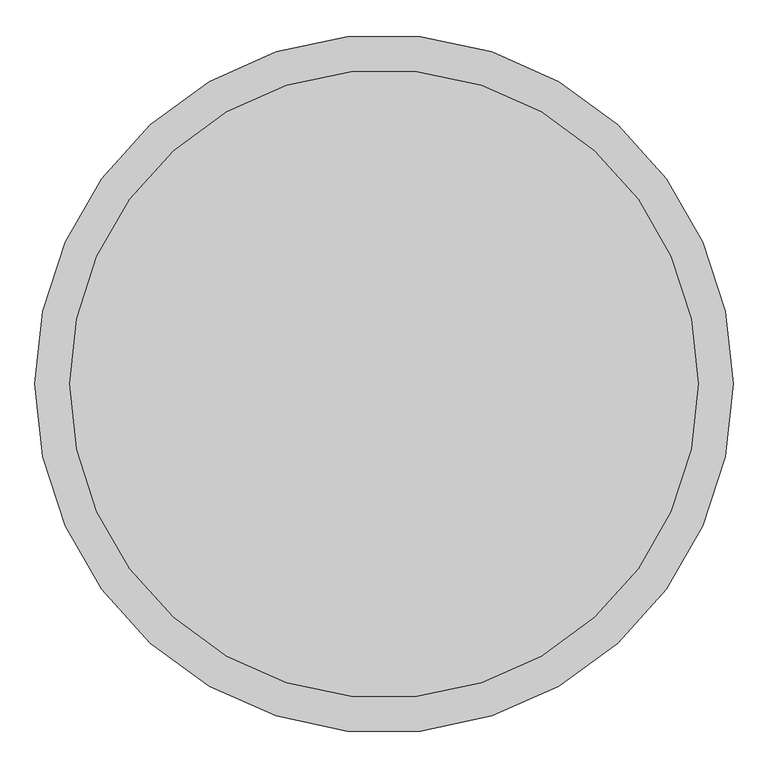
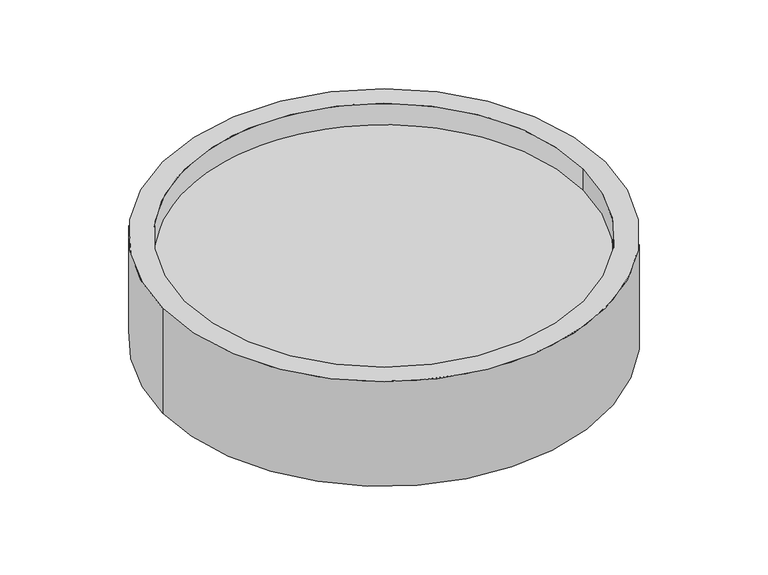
"""IFC4 building model written with IfcOpenShell, lengths in millimetres: proxy geometry, Wasserbecken : Wasserbecken."""

from ifc_helpers import new_model, si_unit, point, frame, origin, origin_with_axes, origin_2d, place, context, project, spatial, polyline, circle_curve, trimmed, segment, composite_curve, outline, extrude, source, transform, mapped, element, save
from ifc_brep_helpers import plane_surface, cylinder_surface, revolved_surface, advanced_brep


def generic_models_ce5f1fb5(model_context):
    return source(origin(), model_context, "Body", "SolidModel", [
        advanced_brep(
        [(-500.0, 0.0, 250.0), (500.0, 0.0, 250.0), (-450.0, 0.0, 250.0), (450.0, 0.0, 250.0), (-500.0, 0.0, 0.0), (500.0, 0.0, 0.0), (450.0, 0.0, 50.0), (-450.0, 0.0, 50.0)],
        [
            (0, 1, circle_curve(frame((0.0, 0.0, 250.0), z_axis=(0.0, 0.0, 1.0), x_axis=(1.0, 0.0, 0.0)), 500.0)),
            (1, 0, circle_curve(frame((0.0, 0.0, 250.0), z_axis=(0.0, 0.0, 1.0), x_axis=(1.0, 0.0, 0.0)), 500.0)),
            (2, 3, circle_curve(frame((0.0, 0.0, 250.0), z_axis=(0.0, 0.0, -1.0), x_axis=(1.0, 0.0, 0.0)), 450.0)),
            (3, 2, circle_curve(frame((0.0, 0.0, 250.0), z_axis=(0.0, 0.0, -1.0), x_axis=(1.0, 0.0, 0.0)), 450.0)),
            (4, 5, circle_curve(frame((0.0, 0.0, 0.0), z_axis=(0.0, 0.0, -1.0), x_axis=(1.0, 0.0, 0.0)), 500.0)),
            (5, 4, circle_curve(frame((0.0, 0.0, 0.0), z_axis=(0.0, 0.0, -1.0), x_axis=(1.0, 0.0, 0.0)), 500.0)),
            (1, 5),
            (4, 0),
            (3, 6),
            (6, 7, circle_curve(frame((0.0, 0.0, 50.0), z_axis=(0.0, 0.0, -1.0), x_axis=(1.0, 0.0, 0.0)), 450.0)),
            (7, 2),
            (7, 6, circle_curve(frame((0.0, 0.0, 50.0), z_axis=(0.0, 0.0, -1.0), x_axis=(1.0, 0.0, 0.0)), 450.0)),
        ],
        [
            plane_surface(frame((500.0, 0.0, 250.0), z_axis=(0.0, 0.0, 1.0), x_axis=(0.0, -1.0, 0.0))),
            plane_surface(frame((500.0, 0.0, 0.0), z_axis=(0.0, 0.0, -1.0), x_axis=(0.0, 1.0, 0.0))),
            cylinder_surface(origin_with_axes(), 500.0),
            revolved_surface(polyline([(450.0, 0.0, 50.0), (450.0, 0.0, 250.0)]), (0.0, 0.0, 0.0), (0.0, 0.0, -1.0)),
            plane_surface(frame((450.0, 0.0, 50.0), z_axis=(0.0, 0.0, 1.0), x_axis=(0.0, -1.0, 0.0))),
        ],
        [
            (0, [[1, 2], [3, 4]]),
            (1, [[5, 6]]),
            (2, [[7, -5, 8, -2]]),
            (2, [[-8, -6, -7, -1]]),
            (3, [[9, 10, 11, -4]]),
            (3, [[-11, 12, -9, -3]]),
            (4, [[-12, -10]]),
        ],
    ),
        extrude(outline(composite_curve([segment(trimmed(circle_curve(origin_2d(), 450.0), [point((-450.0, 0.0))], [point((450.0, 0.0))], False, "CARTESIAN"), True, "CONTINUOUS"), segment(trimmed(circle_curve(origin_2d(), 450.0), [point((450.0, 0.0))], [point((-450.0, 0.0))], False, "CARTESIAN"), True, "CONTINUOUS")], self_intersect=False)), frame((0.0, 0.0, 50.0), z_axis=(0.0, 0.0, 1.0), x_axis=(1.0, 0.0, 0.0)), (0.0, 0.0, 1.0), 150.0),
    ])


if __name__ == "__main__":
    model = new_model("IFC4")
    model_context = context("Model", 3, world=origin())
    ifc_project = project(units=[si_unit("LENGTHUNIT", "METRE", prefix="MILLI")], contexts=[model_context])
    site = spatial("IfcSite", under=ifc_project)
    building = spatial("IfcBuilding", under=site)
    placement = place(None, origin())
    generic_models_shape = generic_models_ce5f1fb5(model_context)
    element("IfcBuildingElementProxy", 1, Name="Wasserbecken : Wasserbecken", ObjectType="Wasserbecken : Wasserbecken", at=placement, inside=building, context=model_context, shape_type="MappedRepresentation", body=[
        mapped(generic_models_shape, transform((0.0, 0.0, 0.0), x_axis=(1.0, 0.0, 0.0), y_axis=(0.0, 1.0, 0.0), z_axis=(0.0, 0.0, 1.0))),
    ])
    save(model, "model.ifc")
